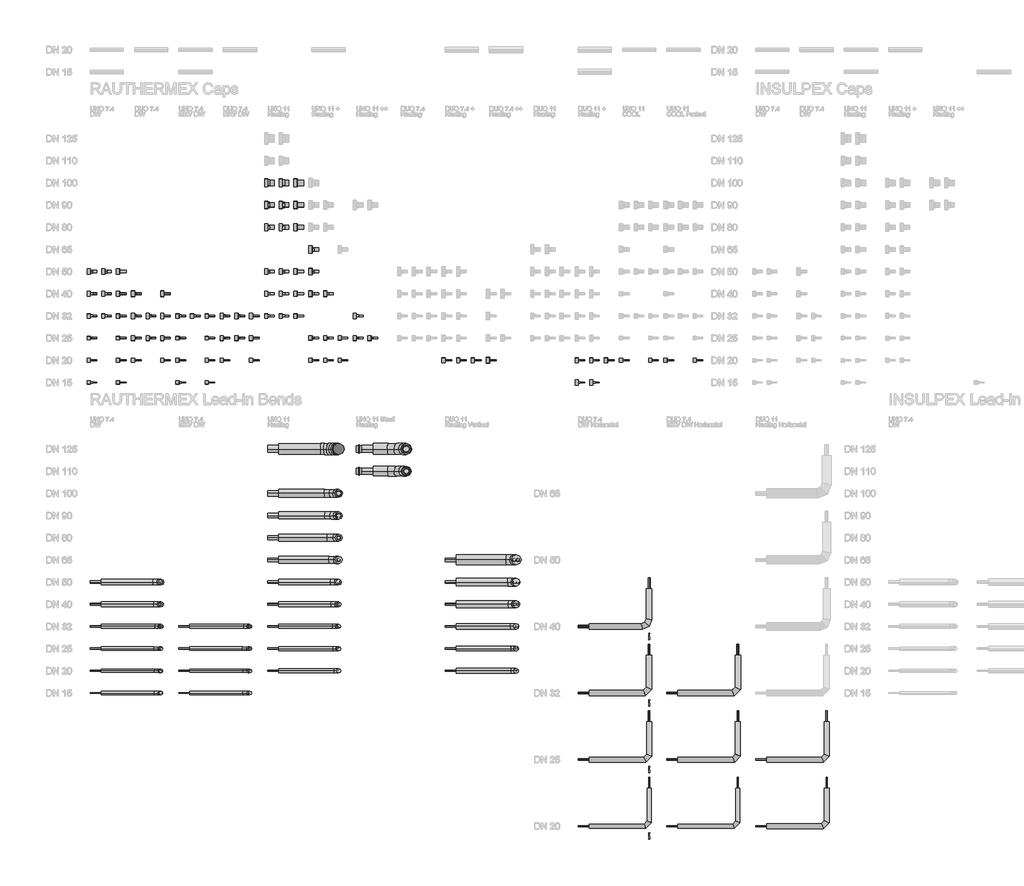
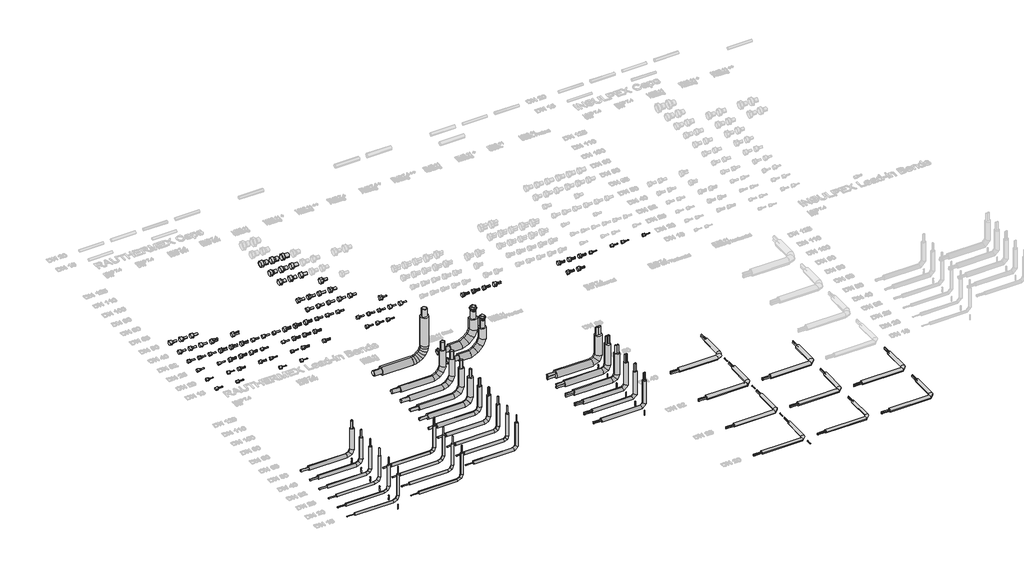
# One storey, part 1 of 44: 123 pipe fittings.
"""IFC4 building model written with IfcOpenShell, lengths in millimetres."""

from ifc_helpers import new_model, si_unit, origin, place, context, project, spatial, transform, mapped, element, save
from components import dh_duo_cap_38ad7c28, dh_duo_cap_57db8bb2, dh_duo_cap_e41fb6d8, dh_duo_cap_ca8780d0, dh_duo_cap_164f9e09, dh_duo_cap_216b5738, dh_duo_cap_58c174f1, dh_duo_cap_4cde6626, dh_duo_cap_34895898, dh_duo_cap_7b3fe66b, dh_duo_cap_7bc42460, dh_duo_cap_a61b90cc, dh_duo_cap_c599dcdc, dh_duo_cap_21493ab1, dh_lead_in_bend_0489eec1, dh_lead_in_bend_4d10f37f, dh_lead_in_bend_c49822a2, dh_lead_in_bend_6a66a6e7, dh_lead_in_bend_729ed1e1, dh_lead_in_bend_7c9c8f80, dh_lead_in_bend_3db4022c, dh_lead_in_bend_de081a9f, dh_lead_in_bend_81963ebd, dh_lead_in_bend_6df17b34, dh_lead_in_bend_01470123, dh_lead_in_bend_c489b661, dh_lead_in_bend_f1abdf10, dh_lead_in_bend_31b992d6, dh_lead_in_bend_53604a29, dh_lead_in_bend_cc4b5283, dh_lead_in_bend_a8513684, dh_lead_in_bend_f3e9e936, dh_lead_in_bend_a209e62e, dh_lead_in_bend_a80b687c, dh_lead_in_bend_594914a1, dh_lead_in_bend_a448e4b1, dh_lead_in_bend_b3935c15, dh_lead_in_bend_179b0c8a, dh_lead_in_bend_0ec1a931, dh_lead_in_bend_4b752211, dh_lead_in_bend_1756ac80, dh_lead_in_bend_a989b2fb, dh_lead_in_bend_9773693a, dh_lead_in_bend_f90659fa, dh_lead_in_bend_4d12e4c8, dh_lead_in_bend_52e7693f, dh_lead_in_bend_a7d7afeb, dh_lead_in_bend_9d490864, dh_lead_in_bend_bfd7b119, dh_lead_in_bend_3ab27fd6, dh_lead_in_bend_f2175f49, dh_uno_cap_cec79eb2, dh_uno_cap_fe882160, dh_uno_cap_723df487, dh_uno_cap_97a2185b, dh_uno_cap_98028304, dh_uno_cap_9742cd2a, dh_uno_cap_751b7bd4, dh_uno_cap_d4246d68, dh_uno_cap_14c8f1f0, dh_uno_cap_2f90c035, dh_uno_cap_99b91bbb, dh_uno_cap_0c939804, dh_uno_cap_3b9207c0, dh_uno_cap_a0cf77d5, dh_uno_cap_c8f08ed2, dh_uno_cap_65efb41c, dh_uno_cap_88088488, dh_uno_cap_5ac99b47, dh_uno_cap_e8f4ea1d, dh_uno_cap_96114e43, dh_uno_cap_b77fc7ff, dh_uno_cap_33b70dba, dh_uno_cap_73119769, dh_uno_cap_92e64040, dh_uno_cap_945a6275, dh_uno_cap_740adfad, dh_uno_cap_4363f071, dh_uno_cap_8eaff71e, dh_uno_cap_b6fb2b5d, dh_uno_cap_75e82632, dh_uno_cap_03200df1, dh_uno_cap_c55762d6, dh_uno_cap_09e5b6a2, dh_uno_cap_a0ef613d, dh_uno_cap_45976d59

model = new_model("IFC4")

# Units and contexts
model_context = context("Model", 3, world=origin())
ifc_project = project(units=[si_unit("LENGTHUNIT", "METRE", prefix="MILLI")], contexts=[model_context])

# Site, building, storey
site = spatial("IfcSite", under=ifc_project)
building = spatial("IfcBuilding", under=site)
storey = spatial("IfcBuildingStorey", under=building, Name="REHAU Starting view", Elevation=0.0)

# Pipe fittings
placement = place(None, origin())
dh_duo_cap_shape = dh_duo_cap_38ad7c28(model_context)
element("IfcPipeFitting", 1, ObjectType="DH_DUO_CAP : RAUTHERMEX DUO 7.4 DW - Schrink Cap", at=placement, inside=storey, context=model_context, shape_type="MappedRepresentation", body=[
    mapped(dh_duo_cap_shape, transform((2000.0, 9000.0, 0.0), x_axis=(1.0, 0.0, 0.0), y_axis=(0.0, 1.0, 0.0), z_axis=(0.0, 0.0, 1.0))),
])
dh_duo_cap_2_shape = dh_duo_cap_57db8bb2(model_context)
element("IfcPipeFitting", 2, ObjectType="DH_DUO_CAP : RAUTHERMEX DUO + 11 Heating - Schrink Cap", at=placement, inside=storey, context=model_context, shape_type="MappedRepresentation", body=[
    mapped(dh_duo_cap_2_shape, transform((12000.0, 7000.0, 0.0), x_axis=(1.0, 0.0, 0.0), y_axis=(0.0, 1.0, 0.0), z_axis=(0.0, 0.0, 1.0))),
])
element("IfcPipeFitting", 3, ObjectType="DH_DUO_CAP : RAUTHERMEX DUO + 11 Heating - Rubber Cap", at=placement, inside=storey, context=model_context, shape_type="MappedRepresentation", body=[
    mapped(dh_duo_cap_2_shape, transform((12330.0, 7000.0, 0.0), x_axis=(1.0, 0.0, 0.0), y_axis=(0.0, 1.0, 0.0), z_axis=(0.0, 0.0, 1.0))),
])
dh_duo_cap_3_shape = dh_duo_cap_e41fb6d8(model_context)
element("IfcPipeFitting", 4, ObjectType="DH_DUO_CAP : RAUTHERMEX DUO 7.4 DW - Rubber Cap", at=placement, inside=storey, context=model_context, shape_type="MappedRepresentation", body=[
    mapped(dh_duo_cap_3_shape, transform((2330.0, 8000.0, 0.0), x_axis=(1.0, 0.0, 0.0), y_axis=(0.0, 1.0, 0.0), z_axis=(0.0, 0.0, 1.0))),
])
dh_duo_cap_4_shape = dh_duo_cap_ca8780d0(model_context)
element("IfcPipeFitting", 5, ObjectType="DH_DUO_CAP : RAUTHERMEX DUO + 11 Heating - Solid Cap", at=placement, inside=storey, context=model_context, shape_type="MappedRepresentation", body=[
    mapped(dh_duo_cap_4_shape, transform((12660.0, 7500.0, 0.0), x_axis=(1.0, 0.0, 0.0), y_axis=(0.0, 1.0, 0.0), z_axis=(0.0, 0.0, 1.0))),
])
dh_duo_cap_5_shape = dh_duo_cap_164f9e09(model_context)
element("IfcPipeFitting", 6, ObjectType="DH_DUO_CAP : RAUTHERMEX DUO + 7.4 Heating - Solid Cap", at=placement, inside=storey, context=model_context, shape_type="MappedRepresentation", body=[
    mapped(dh_duo_cap_5_shape, transform((9660.0, 7500.0, 0.0), x_axis=(1.0, 0.0, 0.0), y_axis=(0.0, 1.0, 0.0), z_axis=(0.0, 0.0, 1.0))),
])
dh_duo_cap_6_shape = dh_duo_cap_216b5738(model_context)
element("IfcPipeFitting", 7, ObjectType="DH_DUO_CAP : RAUTHERMEX DUO 7.4 DW - Solid Cap", at=placement, inside=storey, context=model_context, shape_type="MappedRepresentation", body=[
    mapped(dh_duo_cap_6_shape, transform((2660.0, 8000.0, 0.0), x_axis=(1.0, 0.0, 0.0), y_axis=(0.0, 1.0, 0.0), z_axis=(0.0, 0.0, 1.0))),
])
element("IfcPipeFitting", 8, ObjectType="DH_DUO_CAP : RAUTHERMEX DUO 7.4 MKV DW - Rubber Cap", at=placement, inside=storey, context=model_context, shape_type="MappedRepresentation", body=[
    mapped(dh_duo_cap_3_shape, transform((4330.0, 8000.0, 0.0), x_axis=(1.0, 0.0, 0.0), y_axis=(0.0, 1.0, 0.0), z_axis=(0.0, 0.0, 1.0))),
])
dh_duo_cap_7_shape = dh_duo_cap_58c174f1(model_context)
element("IfcPipeFitting", 9, ObjectType="DH_DUO_CAP : RAUTHERMEX DUO 7.4 DW - Solid Cap", at=placement, inside=storey, context=model_context, shape_type="MappedRepresentation", body=[
    mapped(dh_duo_cap_7_shape, transform((2660.0, 7500.0, 0.0), x_axis=(1.0, 0.0, 0.0), y_axis=(0.0, 1.0, 0.0), z_axis=(0.0, 0.0, 1.0))),
])
dh_duo_cap_8_shape = dh_duo_cap_4cde6626(model_context)
element("IfcPipeFitting", 10, ObjectType="DH_DUO_CAP : RAUTHERMEX DUO 7.4 DW - Solid Cap", at=placement, inside=storey, context=model_context, shape_type="MappedRepresentation", body=[
    mapped(dh_duo_cap_8_shape, transform((2660.0, 8500.0, 0.0), x_axis=(1.0, 0.0, 0.0), y_axis=(0.0, 1.0, 0.0), z_axis=(0.0, 0.0, 1.0))),
])
dh_duo_cap_9_shape = dh_duo_cap_34895898(model_context)
element("IfcPipeFitting", 11, ObjectType="DH_DUO_CAP : RAUTHERMEX DUO 7.4 DW - Rubber Cap", at=placement, inside=storey, context=model_context, shape_type="MappedRepresentation", body=[
    mapped(dh_duo_cap_9_shape, transform((2330.0, 8500.0, 0.0), x_axis=(1.0, 0.0, 0.0), y_axis=(0.0, 1.0, 0.0), z_axis=(0.0, 0.0, 1.0))),
])
dh_duo_cap_10_shape = dh_duo_cap_7b3fe66b(model_context)
element("IfcPipeFitting", 12, ObjectType="DH_DUO_CAP : RAUTHERMEX DUO 7.4 DW - Solid Cap", at=placement, inside=storey, context=model_context, shape_type="MappedRepresentation", body=[
    mapped(dh_duo_cap_10_shape, transform((2660.0, 9000.0, 0.0), x_axis=(1.0, 0.0, 0.0), y_axis=(0.0, 1.0, 0.0), z_axis=(0.0, 0.0, 1.0))),
])
element("IfcPipeFitting", 13, ObjectType="DH_DUO_CAP : RAUTHERMEX DUO 7.4 DW - Schrink Cap", at=placement, inside=storey, context=model_context, shape_type="MappedRepresentation", body=[
    mapped(dh_duo_cap_3_shape, transform((2000.0, 8000.0, 0.0), x_axis=(1.0, 0.0, 0.0), y_axis=(0.0, 1.0, 0.0), z_axis=(0.0, 0.0, 1.0))),
])
element("IfcPipeFitting", 14, ObjectType="DH_DUO_CAP : RAUTHERMEX DUO 7.4 DW - Schrink Cap", at=placement, inside=storey, context=model_context, shape_type="MappedRepresentation", body=[
    mapped(dh_duo_cap_9_shape, transform((2000.0, 8500.0, 0.0), x_axis=(1.0, 0.0, 0.0), y_axis=(0.0, 1.0, 0.0), z_axis=(0.0, 0.0, 1.0))),
])
dh_duo_cap_11_shape = dh_duo_cap_7bc42460(model_context)
element("IfcPipeFitting", 15, ObjectType="DH_DUO_CAP : RAUTHERMEX DUO 7.4 DW - Schrink Cap", at=placement, inside=storey, context=model_context, shape_type="MappedRepresentation", body=[
    mapped(dh_duo_cap_11_shape, transform((2000.0, 7500.0, 0.0), x_axis=(1.0, 0.0, 0.0), y_axis=(0.0, 1.0, 0.0), z_axis=(0.0, 0.0, 1.0))),
])
dh_duo_cap_12_shape = dh_duo_cap_a61b90cc(model_context)
element("IfcPipeFitting", 16, ObjectType="DH_DUO_CAP : RAUTHERMEX DUO + 7.4 Heating - Schrink Cap", at=placement, inside=storey, context=model_context, shape_type="MappedRepresentation", body=[
    mapped(dh_duo_cap_12_shape, transform((9000.0, 7500.0, 0.0), x_axis=(1.0, 0.0, 0.0), y_axis=(0.0, 1.0, 0.0), z_axis=(0.0, 0.0, 1.0))),
])
element("IfcPipeFitting", 17, ObjectType="DH_DUO_CAP : RAUTHERMEX DUO + 7.4 Heating - Rubber Cap", at=placement, inside=storey, context=model_context, shape_type="MappedRepresentation", body=[
    mapped(dh_duo_cap_12_shape, transform((9330.0, 7500.0, 0.0), x_axis=(1.0, 0.0, 0.0), y_axis=(0.0, 1.0, 0.0), z_axis=(0.0, 0.0, 1.0))),
])
dh_duo_cap_13_shape = dh_duo_cap_c599dcdc(model_context)
element("IfcPipeFitting", 18, ObjectType="DH_DUO_CAP : RAUTHERMEX DUO ++ 7.4 Heating - Schrink Cap", at=placement, inside=storey, context=model_context, shape_type="MappedRepresentation", body=[
    mapped(dh_duo_cap_13_shape, transform((10000.0, 7500.0, 0.0), x_axis=(1.0, 0.0, 0.0), y_axis=(0.0, 1.0, 0.0), z_axis=(0.0, 0.0, 1.0))),
])
dh_duo_cap_14_shape = dh_duo_cap_21493ab1(model_context)
element("IfcPipeFitting", 19, ObjectType="DH_DUO_CAP : RAUTHERMEX DUO + 11 Heating - Rubber Cap", at=placement, inside=storey, context=model_context, shape_type="MappedRepresentation", body=[
    mapped(dh_duo_cap_14_shape, transform((12330.0, 7500.0, 0.0), x_axis=(1.0, 0.0, 0.0), y_axis=(0.0, 1.0, 0.0), z_axis=(0.0, 0.0, 1.0))),
])
element("IfcPipeFitting", 20, ObjectType="DH_DUO_CAP : RAUTHERMEX DUO + 11 Heating - Schrink Cap", at=placement, inside=storey, context=model_context, shape_type="MappedRepresentation", body=[
    mapped(dh_duo_cap_14_shape, transform((12000.0, 7500.0, 0.0), x_axis=(1.0, 0.0, 0.0), y_axis=(0.0, 1.0, 0.0), z_axis=(0.0, 0.0, 1.0))),
])
element("IfcPipeFitting", 21, ObjectType="DH_DUO_CAP : RAUTHERMEX DUO 7.4 MKV DW - Solid Cap", at=placement, inside=storey, context=model_context, shape_type="MappedRepresentation", body=[
    mapped(dh_duo_cap_7_shape, transform((4660.0, 7500.0, 0.0), x_axis=(1.0, 0.0, 0.0), y_axis=(0.0, 1.0, 0.0), z_axis=(0.0, 0.0, 1.0))),
])
element("IfcPipeFitting", 22, ObjectType="DH_DUO_CAP : RAUTHERMEX DUO 7.4 MKV DW - Solid Cap", at=placement, inside=storey, context=model_context, shape_type="MappedRepresentation", body=[
    mapped(dh_duo_cap_6_shape, transform((4660.0, 8000.0, 0.0), x_axis=(1.0, 0.0, 0.0), y_axis=(0.0, 1.0, 0.0), z_axis=(0.0, 0.0, 1.0))),
])
element("IfcPipeFitting", 23, ObjectType="DH_DUO_CAP : RAUTHERMEX DUO 7.4 MKV DW - Solid Cap", at=placement, inside=storey, context=model_context, shape_type="MappedRepresentation", body=[
    mapped(dh_duo_cap_8_shape, transform((4660.0, 8500.0, 0.0), x_axis=(1.0, 0.0, 0.0), y_axis=(0.0, 1.0, 0.0), z_axis=(0.0, 0.0, 1.0))),
])
element("IfcPipeFitting", 24, ObjectType="DH_DUO_CAP : RAUTHERMEX DUO 7.4 MKV DW - Rubber Cap", at=placement, inside=storey, context=model_context, shape_type="MappedRepresentation", body=[
    mapped(dh_duo_cap_9_shape, transform((4330.0, 8500.0, 0.0), x_axis=(1.0, 0.0, 0.0), y_axis=(0.0, 1.0, 0.0), z_axis=(0.0, 0.0, 1.0))),
])
element("IfcPipeFitting", 25, ObjectType="DH_DUO_CAP : RAUTHERMEX DUO 7.4 MKV DW - Schrink Cap", at=placement, inside=storey, context=model_context, shape_type="MappedRepresentation", body=[
    mapped(dh_duo_cap_11_shape, transform((4000.0, 7500.0, 0.0), x_axis=(1.0, 0.0, 0.0), y_axis=(0.0, 1.0, 0.0), z_axis=(0.0, 0.0, 1.0))),
])
element("IfcPipeFitting", 26, ObjectType="DH_DUO_CAP : RAUTHERMEX DUO 7.4 MKV DW - Schrink Cap", at=placement, inside=storey, context=model_context, shape_type="MappedRepresentation", body=[
    mapped(dh_duo_cap_3_shape, transform((4000.0, 8000.0, 0.0), x_axis=(1.0, 0.0, 0.0), y_axis=(0.0, 1.0, 0.0), z_axis=(0.0, 0.0, 1.0))),
])
element("IfcPipeFitting", 27, ObjectType="DH_DUO_CAP : RAUTHERMEX DUO 7.4 MKV DW - Schrink Cap", at=placement, inside=storey, context=model_context, shape_type="MappedRepresentation", body=[
    mapped(dh_duo_cap_9_shape, transform((4000.0, 8500.0, 0.0), x_axis=(1.0, 0.0, 0.0), y_axis=(0.0, 1.0, 0.0), z_axis=(0.0, 0.0, 1.0))),
])
dh_lead_in_bend_shape = dh_lead_in_bend_0489eec1(model_context)
element("IfcPipeFitting", 28, ObjectType="DH_Lead-in Bend : RVT/RVX/RTX DUO 11 Heating Horizontal", at=placement, inside=storey, context=model_context, shape_type="MappedRepresentation", body=[
    mapped(dh_lead_in_bend_shape, transform((17600.0, -3000.0, 0.0), x_axis=(1.0, 0.0, 0.0), y_axis=(0.0, 1.0, 0.0), z_axis=(0.0, 0.0, 1.0))),
])
dh_lead_in_bend_2_shape = dh_lead_in_bend_4d10f37f(model_context)
element("IfcPipeFitting", 29, ObjectType="DH_Lead-in Bend : RVT/RVX/RTX DUO 11 Heating Vertical", at=placement, inside=storey, context=model_context, shape_type="MappedRepresentation", body=[
    mapped(dh_lead_in_bend_2_shape, transform((10600.0, 1000.0, 0.0), x_axis=(1.0, 0.0, 0.0), y_axis=(0.0, 0.0, 1.0), z_axis=(0.0, -1.0, 0.0))),
])
dh_lead_in_bend_3_shape = dh_lead_in_bend_c49822a2(model_context)
element("IfcPipeFitting", 30, ObjectType="DH_Lead-in Bend : RVT/RVX/RTX DUO 7.4 DW Horizontal", at=placement, inside=storey, context=model_context, shape_type="MappedRepresentation", body=[
    mapped(dh_lead_in_bend_3_shape, transform((13600.0, -3000.0, 0.0), x_axis=(1.0, 0.0, 0.0), y_axis=(0.0, 1.0, 0.0), z_axis=(0.0, 0.0, 1.0))),
])
dh_lead_in_bend_4_shape = dh_lead_in_bend_6a66a6e7(model_context)
element("IfcPipeFitting", 31, ObjectType="DH_Lead-in Bend : RVT/RVX/RTX DUO 7.4 MKV DW Horizontal", at=placement, inside=storey, context=model_context, shape_type="MappedRepresentation", body=[
    mapped(dh_lead_in_bend_4_shape, transform((15600.0, -3000.0, 0.0), x_axis=(1.0, 0.0, 0.0), y_axis=(0.0, 1.0, 0.0), z_axis=(0.0, 0.0, 1.0))),
])
dh_lead_in_bend_5_shape = dh_lead_in_bend_729ed1e1(model_context)
element("IfcPipeFitting", 32, ObjectType="DH_Lead-in Bend : RVT/RVX/RTX UNO 11 Heating Steel", at=placement, inside=storey, context=model_context, shape_type="MappedRepresentation", body=[
    mapped(dh_lead_in_bend_5_shape, transform((8127.0, 5000.0, 0.0), x_axis=(1.0, 0.0, 0.0), y_axis=(0.0, 0.0, 1.0), z_axis=(0.0, -1.0, 0.0))),
])
dh_lead_in_bend_6_shape = dh_lead_in_bend_7c9c8f80(model_context)
element("IfcPipeFitting", 33, ObjectType="DH_Lead-in Bend : RVT/RVX/RTX UNO 11 Heating", at=placement, inside=storey, context=model_context, shape_type="MappedRepresentation", body=[
    mapped(dh_lead_in_bend_6_shape, transform((6600.0, 500.0, 0.0), x_axis=(1.0, 0.0, 0.0), y_axis=(0.0, 0.0, 1.0), z_axis=(0.0, -1.0, 0.0))),
])
dh_lead_in_bend_7_shape = dh_lead_in_bend_3db4022c(model_context)
element("IfcPipeFitting", 34, ObjectType="DH_Lead-in Bend : RVT/RVX/RTX UNO 7.4 DW", at=placement, inside=storey, context=model_context, shape_type="MappedRepresentation", body=[
    mapped(dh_lead_in_bend_7_shape, transform((2600.0, 500.0, 0.0), x_axis=(1.0, 0.0, 0.0), y_axis=(0.0, 0.0, 1.0), z_axis=(0.0, -1.0, 0.0))),
])
dh_lead_in_bend_8_shape = dh_lead_in_bend_de081a9f(model_context)
element("IfcPipeFitting", 35, ObjectType="DH_Lead-in Bend : RVT/RVX/RTX UNO 7.4 MKV DW", at=placement, inside=storey, context=model_context, shape_type="MappedRepresentation", body=[
    mapped(dh_lead_in_bend_8_shape, transform((4600.0, 500.0, 0.0), x_axis=(1.0, 0.0, 0.0), y_axis=(0.0, 0.0, 1.0), z_axis=(0.0, -1.0, 0.0))),
])
dh_lead_in_bend_9_shape = dh_lead_in_bend_81963ebd(model_context)
element("IfcPipeFitting", 36, ObjectType="DH_Lead-in Bend : RVT/RVX/RTX DUO 7.4 DW Horizontal", at=placement, inside=storey, context=model_context, shape_type="MappedRepresentation", body=[
    mapped(dh_lead_in_bend_9_shape, transform((13600.0, -1500.0, 0.0), x_axis=(1.0, 0.0, 0.0), y_axis=(0.0, 1.0, 0.0), z_axis=(0.0, 0.0, 1.0))),
])
dh_lead_in_bend_10_shape = dh_lead_in_bend_6df17b34(model_context)
element("IfcPipeFitting", 37, ObjectType="DH_Lead-in Bend : RVT/RVX/RTX DUO 7.4 DW Horizontal", at=placement, inside=storey, context=model_context, shape_type="MappedRepresentation", body=[
    mapped(dh_lead_in_bend_10_shape, transform((13600.0, 0.0, 0.0), x_axis=(1.0, 0.0, 0.0), y_axis=(0.0, 1.0, 0.0), z_axis=(0.0, 0.0, 1.0))),
])
dh_lead_in_bend_11_shape = dh_lead_in_bend_01470123(model_context)
element("IfcPipeFitting", 38, ObjectType="DH_Lead-in Bend : RVT/RVX/RTX DUO 11 Heating Vertical", at=placement, inside=storey, context=model_context, shape_type="MappedRepresentation", body=[
    mapped(dh_lead_in_bend_11_shape, transform((10600.0, 500.0, 0.0), x_axis=(1.0, 0.0, 0.0), y_axis=(0.0, 0.0, 1.0), z_axis=(0.0, -1.0, 0.0))),
])
dh_lead_in_bend_12_shape = dh_lead_in_bend_c489b661(model_context)
element("IfcPipeFitting", 39, ObjectType="DH_Lead-in Bend : RVT/RVX/RTX DUO 11 Heating Vertical", at=placement, inside=storey, context=model_context, shape_type="MappedRepresentation", body=[
    mapped(dh_lead_in_bend_12_shape, transform((10600.0, 1500.0, 0.0), x_axis=(1.0, 0.0, 0.0), y_axis=(0.0, 0.0, 1.0), z_axis=(0.0, -1.0, 0.0))),
])
dh_lead_in_bend_13_shape = dh_lead_in_bend_f1abdf10(model_context)
element("IfcPipeFitting", 40, ObjectType="DH_Lead-in Bend : RVT/RVX/RTX DUO 11 Heating Vertical", at=placement, inside=storey, context=model_context, shape_type="MappedRepresentation", body=[
    mapped(dh_lead_in_bend_13_shape, transform((10600.0, 2000.0, 0.0), x_axis=(1.0, 0.0, 0.0), y_axis=(0.0, 0.0, 1.0), z_axis=(0.0, -1.0, 0.0))),
])
dh_lead_in_bend_14_shape = dh_lead_in_bend_31b992d6(model_context)
element("IfcPipeFitting", 41, ObjectType="DH_Lead-in Bend : RVT/RVX/RTX DUO 11 Heating Vertical", at=placement, inside=storey, context=model_context, shape_type="MappedRepresentation", body=[
    mapped(dh_lead_in_bend_14_shape, transform((10600.0, 2500.0, 0.0), x_axis=(1.0, 0.0, 0.0), y_axis=(0.0, 0.0, 1.0), z_axis=(0.0, -1.0, 0.0))),
])
dh_lead_in_bend_15_shape = dh_lead_in_bend_53604a29(model_context)
element("IfcPipeFitting", 42, ObjectType="DH_Lead-in Bend : RVT/RVX/RTX DUO 11 Heating Vertical", at=placement, inside=storey, context=model_context, shape_type="MappedRepresentation", body=[
    mapped(dh_lead_in_bend_15_shape, transform((10600.0, 3000.0, 0.0), x_axis=(1.0, 0.0, 0.0), y_axis=(0.0, 0.0, 1.0), z_axis=(0.0, -1.0, 0.0))),
])
dh_lead_in_bend_16_shape = dh_lead_in_bend_cc4b5283(model_context)
element("IfcPipeFitting", 43, ObjectType="DH_Lead-in Bend : RVT/RVX/RTX UNO 11 Heating", at=placement, inside=storey, context=model_context, shape_type="MappedRepresentation", body=[
    mapped(dh_lead_in_bend_16_shape, transform((6600.0, 1000.0, 0.0), x_axis=(1.0, 0.0, 0.0), y_axis=(0.0, 0.0, 1.0), z_axis=(0.0, -1.0, 0.0))),
])
dh_lead_in_bend_17_shape = dh_lead_in_bend_a8513684(model_context)
element("IfcPipeFitting", 44, ObjectType="DH_Lead-in Bend : RVT/RVX/RTX UNO 11 Heating", at=placement, inside=storey, context=model_context, shape_type="MappedRepresentation", body=[
    mapped(dh_lead_in_bend_17_shape, transform((6600.0, 1500.0, 0.0), x_axis=(1.0, 0.0, 0.0), y_axis=(0.0, 0.0, 1.0), z_axis=(0.0, -1.0, 0.0))),
])
dh_lead_in_bend_18_shape = dh_lead_in_bend_f3e9e936(model_context)
element("IfcPipeFitting", 45, ObjectType="DH_Lead-in Bend : RVT/RVX/RTX UNO 11 Heating", at=placement, inside=storey, context=model_context, shape_type="MappedRepresentation", body=[
    mapped(dh_lead_in_bend_18_shape, transform((6600.0, 2000.0, 0.0), x_axis=(1.0, 0.0, 0.0), y_axis=(0.0, 0.0, 1.0), z_axis=(0.0, -1.0, 0.0))),
])
dh_lead_in_bend_19_shape = dh_lead_in_bend_a209e62e(model_context)
element("IfcPipeFitting", 46, ObjectType="DH_Lead-in Bend : RVT/RVX/RTX UNO 11 Heating", at=placement, inside=storey, context=model_context, shape_type="MappedRepresentation", body=[
    mapped(dh_lead_in_bend_19_shape, transform((6600.0, 2500.0, 0.0), x_axis=(1.0, 0.0, 0.0), y_axis=(0.0, 0.0, 1.0), z_axis=(0.0, -1.0, 0.0))),
])
dh_lead_in_bend_20_shape = dh_lead_in_bend_a80b687c(model_context)
element("IfcPipeFitting", 47, ObjectType="DH_Lead-in Bend : RVT/RVX/RTX UNO 11 Heating", at=placement, inside=storey, context=model_context, shape_type="MappedRepresentation", body=[
    mapped(dh_lead_in_bend_20_shape, transform((6600.0, 3000.0, 0.0), x_axis=(1.0, 0.0, 0.0), y_axis=(0.0, 0.0, 1.0), z_axis=(0.0, -1.0, 0.0))),
])
dh_lead_in_bend_21_shape = dh_lead_in_bend_594914a1(model_context)
element("IfcPipeFitting", 48, ObjectType="DH_Lead-in Bend : RVT/RVX/RTX UNO 11 Heating", at=placement, inside=storey, context=model_context, shape_type="MappedRepresentation", body=[
    mapped(dh_lead_in_bend_21_shape, transform((6600.0, 3500.0, 0.0), x_axis=(1.0, 0.0, 0.0), y_axis=(0.0, 0.0, 1.0), z_axis=(0.0, -1.0, 0.0))),
])
dh_lead_in_bend_22_shape = dh_lead_in_bend_a448e4b1(model_context)
element("IfcPipeFitting", 49, ObjectType="DH_Lead-in Bend : RVT/RVX/RTX UNO 11 Heating", at=placement, inside=storey, context=model_context, shape_type="MappedRepresentation", body=[
    mapped(dh_lead_in_bend_22_shape, transform((6600.0, 4000.0, 0.0), x_axis=(1.0, 0.0, 0.0), y_axis=(0.0, 0.0, 1.0), z_axis=(0.0, -1.0, 0.0))),
])
dh_lead_in_bend_23_shape = dh_lead_in_bend_b3935c15(model_context)
element("IfcPipeFitting", 50, ObjectType="DH_Lead-in Bend : RVT/RVX/RTX UNO 11 Heating", at=placement, inside=storey, context=model_context, shape_type="MappedRepresentation", body=[
    mapped(dh_lead_in_bend_23_shape, transform((6600.0, 4500.0, 0.0), x_axis=(1.0, 0.0, 0.0), y_axis=(0.0, 0.0, 1.0), z_axis=(0.0, -1.0, 0.0))),
])
dh_lead_in_bend_24_shape = dh_lead_in_bend_179b0c8a(model_context)
element("IfcPipeFitting", 51, ObjectType="DH_Lead-in Bend : RVT/RVX/RTX UNO 11 Heating", at=placement, inside=storey, context=model_context, shape_type="MappedRepresentation", body=[
    mapped(dh_lead_in_bend_24_shape, transform((6600.0, 5500.0, 0.0), x_axis=(1.0, 0.0, 0.0), y_axis=(0.0, 0.0, 1.0), z_axis=(0.0, -1.0, 0.0))),
])
dh_lead_in_bend_25_shape = dh_lead_in_bend_0ec1a931(model_context)
element("IfcPipeFitting", 52, ObjectType="DH_Lead-in Bend : RVT/RVX/RTX UNO 11 Heating Steel", at=placement, inside=storey, context=model_context, shape_type="MappedRepresentation", body=[
    mapped(dh_lead_in_bend_25_shape, transform((8127.0, 5500.0, 0.0), x_axis=(1.0, 0.0, 0.0), y_axis=(0.0, 0.0, 1.0), z_axis=(0.0, -1.0, 0.0))),
])
dh_lead_in_bend_26_shape = dh_lead_in_bend_4b752211(model_context)
element("IfcPipeFitting", 53, ObjectType="DH_Lead-in Bend : RVT/RVX/RTX UNO 7.4 DW", at=placement, inside=storey, context=model_context, shape_type="MappedRepresentation", body=[
    mapped(dh_lead_in_bend_26_shape, transform((2600.0, 0.0, 0.0), x_axis=(1.0, 0.0, 0.0), y_axis=(0.0, 0.0, 1.0), z_axis=(0.0, -1.0, 0.0))),
])
dh_lead_in_bend_27_shape = dh_lead_in_bend_1756ac80(model_context)
element("IfcPipeFitting", 54, ObjectType="DH_Lead-in Bend : RVT/RVX/RTX UNO 7.4 DW", at=placement, inside=storey, context=model_context, shape_type="MappedRepresentation", body=[
    mapped(dh_lead_in_bend_27_shape, transform((2600.0, 1000.0, 0.0), x_axis=(1.0, 0.0, 0.0), y_axis=(0.0, 0.0, 1.0), z_axis=(0.0, -1.0, 0.0))),
])
dh_lead_in_bend_28_shape = dh_lead_in_bend_a989b2fb(model_context)
element("IfcPipeFitting", 55, ObjectType="DH_Lead-in Bend : RVT/RVX/RTX UNO 7.4 DW", at=placement, inside=storey, context=model_context, shape_type="MappedRepresentation", body=[
    mapped(dh_lead_in_bend_28_shape, transform((2600.0, 1500.0, 0.0), x_axis=(1.0, 0.0, 0.0), y_axis=(0.0, 0.0, 1.0), z_axis=(0.0, -1.0, 0.0))),
])
dh_lead_in_bend_29_shape = dh_lead_in_bend_9773693a(model_context)
element("IfcPipeFitting", 56, ObjectType="DH_Lead-in Bend : RVT/RVX/RTX UNO 7.4 DW", at=placement, inside=storey, context=model_context, shape_type="MappedRepresentation", body=[
    mapped(dh_lead_in_bend_29_shape, transform((2600.0, 2000.0, 0.0), x_axis=(1.0, 0.0, 0.0), y_axis=(0.0, 0.0, 1.0), z_axis=(0.0, -1.0, 0.0))),
])
dh_lead_in_bend_30_shape = dh_lead_in_bend_f90659fa(model_context)
element("IfcPipeFitting", 57, ObjectType="DH_Lead-in Bend : RVT/RVX/RTX UNO 7.4 DW", at=placement, inside=storey, context=model_context, shape_type="MappedRepresentation", body=[
    mapped(dh_lead_in_bend_30_shape, transform((2600.0, 2500.0, 0.0), x_axis=(1.0, 0.0, 0.0), y_axis=(0.0, 0.0, 1.0), z_axis=(0.0, -1.0, 0.0))),
])
dh_lead_in_bend_31_shape = dh_lead_in_bend_4d12e4c8(model_context)
element("IfcPipeFitting", 58, ObjectType="DH_Lead-in Bend : RVT/RVX/RTX UNO 7.4 MKV DW", at=placement, inside=storey, context=model_context, shape_type="MappedRepresentation", body=[
    mapped(dh_lead_in_bend_31_shape, transform((4600.0, 0.0, 0.0), x_axis=(1.0, 0.0, 0.0), y_axis=(0.0, 0.0, 1.0), z_axis=(0.0, -1.0, 0.0))),
])
dh_lead_in_bend_32_shape = dh_lead_in_bend_52e7693f(model_context)
element("IfcPipeFitting", 59, ObjectType="DH_Lead-in Bend : RVT/RVX/RTX UNO 7.4 MKV DW", at=placement, inside=storey, context=model_context, shape_type="MappedRepresentation", body=[
    mapped(dh_lead_in_bend_32_shape, transform((4600.0, 1000.0, 0.0), x_axis=(1.0, 0.0, 0.0), y_axis=(0.0, 0.0, 1.0), z_axis=(0.0, -1.0, 0.0))),
])
dh_lead_in_bend_33_shape = dh_lead_in_bend_a7d7afeb(model_context)
element("IfcPipeFitting", 60, ObjectType="DH_Lead-in Bend : RVT/RVX/RTX UNO 7.4 MKV DW", at=placement, inside=storey, context=model_context, shape_type="MappedRepresentation", body=[
    mapped(dh_lead_in_bend_33_shape, transform((4600.0, 1500.0, 0.0), x_axis=(1.0, 0.0, 0.0), y_axis=(0.0, 0.0, 1.0), z_axis=(0.0, -1.0, 0.0))),
])
dh_lead_in_bend_34_shape = dh_lead_in_bend_9d490864(model_context)
element("IfcPipeFitting", 61, ObjectType="DH_Lead-in Bend : RVT/RVX/RTX DUO 7.4 DW Horizontal", at=placement, inside=storey, context=model_context, shape_type="MappedRepresentation", body=[
    mapped(dh_lead_in_bend_34_shape, transform((13600.0, 1500.0, 0.0), x_axis=(1.0, 0.0, 0.0), y_axis=(0.0, 1.0, 0.0), z_axis=(0.0, 0.0, 1.0))),
])
dh_lead_in_bend_35_shape = dh_lead_in_bend_bfd7b119(model_context)
element("IfcPipeFitting", 62, ObjectType="DH_Lead-in Bend : RVT/RVX/RTX DUO 7.4 MKV DW Horizontal", at=placement, inside=storey, context=model_context, shape_type="MappedRepresentation", body=[
    mapped(dh_lead_in_bend_35_shape, transform((15600.0, -1500.0, 0.0), x_axis=(1.0, 0.0, 0.0), y_axis=(0.0, 1.0, 0.0), z_axis=(0.0, 0.0, 1.0))),
])
dh_lead_in_bend_36_shape = dh_lead_in_bend_3ab27fd6(model_context)
element("IfcPipeFitting", 63, ObjectType="DH_Lead-in Bend : RVT/RVX/RTX DUO 7.4 MKV DW Horizontal", at=placement, inside=storey, context=model_context, shape_type="MappedRepresentation", body=[
    mapped(dh_lead_in_bend_36_shape, transform((15600.0, 0.0, 0.0), x_axis=(1.0, 0.0, 0.0), y_axis=(0.0, 1.0, 0.0), z_axis=(0.0, 0.0, 1.0))),
])
dh_lead_in_bend_37_shape = dh_lead_in_bend_f2175f49(model_context)
element("IfcPipeFitting", 64, ObjectType="DH_Lead-in Bend : RVT/RVX/RTX DUO 11 Heating Horizontal", at=placement, inside=storey, context=model_context, shape_type="MappedRepresentation", body=[
    mapped(dh_lead_in_bend_37_shape, transform((17600.0, -1500.0, 0.0), x_axis=(1.0, 0.0, 0.0), y_axis=(0.0, 1.0, 0.0), z_axis=(0.0, 0.0, 1.0))),
])
dh_uno_cap_shape = dh_uno_cap_cec79eb2(model_context)
element("IfcPipeFitting", 65, ObjectType="DH_UNO_CAP : RAUTHERMEX UNO 7.4 DW - Schrink Cap", at=placement, inside=storey, context=model_context, shape_type="MappedRepresentation", body=[
    mapped(dh_uno_cap_shape, transform((1000.0, 9000.0, 0.0), x_axis=(1.0, 0.0, 0.0), y_axis=(0.0, 1.0, 0.0), z_axis=(0.0, 0.0, 1.0))),
])
dh_uno_cap_2_shape = dh_uno_cap_fe882160(model_context)
element("IfcPipeFitting", 66, ObjectType="DH_UNO_CAP : RAUTHERMEX UNO + 11 Heating - Schrink Cap", at=placement, inside=storey, context=model_context, shape_type="MappedRepresentation", body=[
    mapped(dh_uno_cap_2_shape, transform((6000.0, 7500.0, 0.0), x_axis=(1.0, 0.0, 0.0), y_axis=(0.0, 1.0, 0.0), z_axis=(0.0, 0.0, 1.0))),
])
dh_uno_cap_3_shape = dh_uno_cap_723df487(model_context)
element("IfcPipeFitting", 67, ObjectType="DH_UNO_CAP : RAUTHERMEX UNO 11 Heating - Schrink Cap", at=placement, inside=storey, context=model_context, shape_type="MappedRepresentation", body=[
    mapped(dh_uno_cap_3_shape, transform((5000.0, 8500.0, 0.0), x_axis=(1.0, 0.0, 0.0), y_axis=(0.0, 1.0, 0.0), z_axis=(0.0, 0.0, 1.0))),
])
element("IfcPipeFitting", 68, ObjectType="DH_UNO_CAP : RAUTHERMEX UNO + 11 Heating - Rubber Cap", at=placement, inside=storey, context=model_context, shape_type="MappedRepresentation", body=[
    mapped(dh_uno_cap_2_shape, transform((6330.0, 7500.0, 0.0), x_axis=(1.0, 0.0, 0.0), y_axis=(0.0, 1.0, 0.0), z_axis=(0.0, 0.0, 1.0))),
])
element("IfcPipeFitting", 69, ObjectType="DH_UNO_CAP : RAUTHERMEX UNO 11 Heating - Rubber Cap", at=placement, inside=storey, context=model_context, shape_type="MappedRepresentation", body=[
    mapped(dh_uno_cap_3_shape, transform((5330.0, 8500.0, 0.0), x_axis=(1.0, 0.0, 0.0), y_axis=(0.0, 1.0, 0.0), z_axis=(0.0, 0.0, 1.0))),
])
dh_uno_cap_4_shape = dh_uno_cap_97a2185b(model_context)
element("IfcPipeFitting", 70, ObjectType="DH_UNO_CAP : RAUTHERMEX UNO 7.4 DW - Rubber Cap", at=placement, inside=storey, context=model_context, shape_type="MappedRepresentation", body=[
    mapped(dh_uno_cap_4_shape, transform((1330.0, 8500.0, 0.0), x_axis=(1.0, 0.0, 0.0), y_axis=(0.0, 1.0, 0.0), z_axis=(0.0, 0.0, 1.0))),
])
dh_uno_cap_5_shape = dh_uno_cap_98028304(model_context)
element("IfcPipeFitting", 71, ObjectType="DH_UNO_CAP : RAUTHERMEX UNO + 11 Heating - Solid Cap", at=placement, inside=storey, context=model_context, shape_type="MappedRepresentation", body=[
    mapped(dh_uno_cap_5_shape, transform((6660.0, 7500.0, 0.0), x_axis=(1.0, 0.0, 0.0), y_axis=(0.0, 1.0, 0.0), z_axis=(0.0, 0.0, 1.0))),
])
dh_uno_cap_6_shape = dh_uno_cap_9742cd2a(model_context)
element("IfcPipeFitting", 72, ObjectType="DH_UNO_CAP : RAUTHERMEX UNO 11 Heating - Solid Cap", at=placement, inside=storey, context=model_context, shape_type="MappedRepresentation", body=[
    mapped(dh_uno_cap_6_shape, transform((5660.0, 8500.0, 0.0), x_axis=(1.0, 0.0, 0.0), y_axis=(0.0, 1.0, 0.0), z_axis=(0.0, 0.0, 1.0))),
])
dh_uno_cap_7_shape = dh_uno_cap_751b7bd4(model_context)
element("IfcPipeFitting", 73, ObjectType="DH_UNO_CAP : RAUTHERMEX UNO 7.4 DW - Solid Cap", at=placement, inside=storey, context=model_context, shape_type="MappedRepresentation", body=[
    mapped(dh_uno_cap_7_shape, transform((1660.0, 8000.0, 0.0), x_axis=(1.0, 0.0, 0.0), y_axis=(0.0, 1.0, 0.0), z_axis=(0.0, 0.0, 1.0))),
])
dh_uno_cap_8_shape = dh_uno_cap_d4246d68(model_context)
element("IfcPipeFitting", 74, ObjectType="DH_UNO_CAP : RAUTHERMEX UNO ++ 11 Heating - Rubber Cap", at=placement, inside=storey, context=model_context, shape_type="MappedRepresentation", body=[
    mapped(dh_uno_cap_8_shape, transform((7330.0, 8000.0, 0.0), x_axis=(1.0, 0.0, 0.0), y_axis=(0.0, 1.0, 0.0), z_axis=(0.0, 0.0, 1.0))),
])
element("IfcPipeFitting", 75, ObjectType="DH_UNO_CAP : RAUTHERMEX UNO ++ 11 Heating - Schrink Cap", at=placement, inside=storey, context=model_context, shape_type="MappedRepresentation", body=[
    mapped(dh_uno_cap_8_shape, transform((7000.0, 8000.0, 0.0), x_axis=(1.0, 0.0, 0.0), y_axis=(0.0, 1.0, 0.0), z_axis=(0.0, 0.0, 1.0))),
])
dh_uno_cap_9_shape = dh_uno_cap_14c8f1f0(model_context)
element("IfcPipeFitting", 76, ObjectType="DH_UNO_CAP : RAUTHERMEX UNO 7.4 MKV DW - Schrink Cap", at=placement, inside=storey, context=model_context, shape_type="MappedRepresentation", body=[
    mapped(dh_uno_cap_9_shape, transform((3000.0, 8000.0, 0.0), x_axis=(1.0, 0.0, 0.0), y_axis=(0.0, 1.0, 0.0), z_axis=(0.0, 0.0, 1.0))),
])
element("IfcPipeFitting", 77, ObjectType="DH_UNO_CAP : RAUTHERMEX UNO 7.4 MKV DW - Rubber Cap", at=placement, inside=storey, context=model_context, shape_type="MappedRepresentation", body=[
    mapped(dh_uno_cap_4_shape, transform((3330.0, 8500.0, 0.0), x_axis=(1.0, 0.0, 0.0), y_axis=(0.0, 1.0, 0.0), z_axis=(0.0, 0.0, 1.0))),
])
element("IfcPipeFitting", 78, ObjectType="DH_UNO_CAP : RAUTHERMEX UNO 7.4 MKV DW - Solid Cap", at=placement, inside=storey, context=model_context, shape_type="MappedRepresentation", body=[
    mapped(dh_uno_cap_7_shape, transform((3660.0, 8000.0, 0.0), x_axis=(1.0, 0.0, 0.0), y_axis=(0.0, 1.0, 0.0), z_axis=(0.0, 0.0, 1.0))),
])
dh_uno_cap_10_shape = dh_uno_cap_2f90c035(model_context)
element("IfcPipeFitting", 79, ObjectType="DH_UNO_CAP : RAUTHERMEX UNO 7.4 DW - Solid Cap", at=placement, inside=storey, context=model_context, shape_type="MappedRepresentation", body=[
    mapped(dh_uno_cap_10_shape, transform((1660.0, 7000.0, 0.0), x_axis=(1.0, 0.0, 0.0), y_axis=(0.0, 1.0, 0.0), z_axis=(0.0, 0.0, 1.0))),
])
dh_uno_cap_11_shape = dh_uno_cap_99b91bbb(model_context)
element("IfcPipeFitting", 80, ObjectType="DH_UNO_CAP : RAUTHERMEX UNO 7.4 DW - Schrink Cap", at=placement, inside=storey, context=model_context, shape_type="MappedRepresentation", body=[
    mapped(dh_uno_cap_11_shape, transform((1000.0, 7000.0, 0.0), x_axis=(1.0, 0.0, 0.0), y_axis=(0.0, 1.0, 0.0), z_axis=(0.0, 0.0, 1.0))),
])
dh_uno_cap_12_shape = dh_uno_cap_0c939804(model_context)
element("IfcPipeFitting", 81, ObjectType="DH_UNO_CAP : RAUTHERMEX UNO 7.4 DW - Solid Cap", at=placement, inside=storey, context=model_context, shape_type="MappedRepresentation", body=[
    mapped(dh_uno_cap_12_shape, transform((1660.0, 7500.0, 0.0), x_axis=(1.0, 0.0, 0.0), y_axis=(0.0, 1.0, 0.0), z_axis=(0.0, 0.0, 1.0))),
])
dh_uno_cap_13_shape = dh_uno_cap_3b9207c0(model_context)
element("IfcPipeFitting", 82, ObjectType="DH_UNO_CAP : RAUTHERMEX UNO 7.4 DW - Schrink Cap", at=placement, inside=storey, context=model_context, shape_type="MappedRepresentation", body=[
    mapped(dh_uno_cap_13_shape, transform((1000.0, 7500.0, 0.0), x_axis=(1.0, 0.0, 0.0), y_axis=(0.0, 1.0, 0.0), z_axis=(0.0, 0.0, 1.0))),
])
element("IfcPipeFitting", 83, ObjectType="DH_UNO_CAP : RAUTHERMEX UNO 7.4 DW - Schrink Cap", at=placement, inside=storey, context=model_context, shape_type="MappedRepresentation", body=[
    mapped(dh_uno_cap_9_shape, transform((1000.0, 8000.0, 0.0), x_axis=(1.0, 0.0, 0.0), y_axis=(0.0, 1.0, 0.0), z_axis=(0.0, 0.0, 1.0))),
])
dh_uno_cap_14_shape = dh_uno_cap_a0cf77d5(model_context)
element("IfcPipeFitting", 84, ObjectType="DH_UNO_CAP : RAUTHERMEX UNO 7.4 DW - Solid Cap", at=placement, inside=storey, context=model_context, shape_type="MappedRepresentation", body=[
    mapped(dh_uno_cap_14_shape, transform((1660.0, 8500.0, 0.0), x_axis=(1.0, 0.0, 0.0), y_axis=(0.0, 1.0, 0.0), z_axis=(0.0, 0.0, 1.0))),
])
element("IfcPipeFitting", 85, ObjectType="DH_UNO_CAP : RAUTHERMEX UNO 7.4 DW - Schrink Cap", at=placement, inside=storey, context=model_context, shape_type="MappedRepresentation", body=[
    mapped(dh_uno_cap_4_shape, transform((1000.0, 8500.0, 0.0), x_axis=(1.0, 0.0, 0.0), y_axis=(0.0, 1.0, 0.0), z_axis=(0.0, 0.0, 1.0))),
])
dh_uno_cap_15_shape = dh_uno_cap_c8f08ed2(model_context)
element("IfcPipeFitting", 86, ObjectType="DH_UNO_CAP : RAUTHERMEX UNO 7.4 DW - Solid Cap", at=placement, inside=storey, context=model_context, shape_type="MappedRepresentation", body=[
    mapped(dh_uno_cap_15_shape, transform((1660.0, 9000.0, 0.0), x_axis=(1.0, 0.0, 0.0), y_axis=(0.0, 1.0, 0.0), z_axis=(0.0, 0.0, 1.0))),
])
element("IfcPipeFitting", 87, ObjectType="DH_UNO_CAP : RAUTHERMEX UNO 7.4 DW - Rubber Cap", at=placement, inside=storey, context=model_context, shape_type="MappedRepresentation", body=[
    mapped(dh_uno_cap_shape, transform((1330.0, 9000.0, 0.0), x_axis=(1.0, 0.0, 0.0), y_axis=(0.0, 1.0, 0.0), z_axis=(0.0, 0.0, 1.0))),
])
dh_uno_cap_16_shape = dh_uno_cap_65efb41c(model_context)
element("IfcPipeFitting", 88, ObjectType="DH_UNO_CAP : RAUTHERMEX UNO 7.4 DW - Solid Cap", at=placement, inside=storey, context=model_context, shape_type="MappedRepresentation", body=[
    mapped(dh_uno_cap_16_shape, transform((1660.0, 9500.0, 0.0), x_axis=(1.0, 0.0, 0.0), y_axis=(0.0, 1.0, 0.0), z_axis=(0.0, 0.0, 1.0))),
])
dh_uno_cap_17_shape = dh_uno_cap_88088488(model_context)
element("IfcPipeFitting", 89, ObjectType="DH_UNO_CAP : RAUTHERMEX UNO 7.4 DW - Schrink Cap", at=placement, inside=storey, context=model_context, shape_type="MappedRepresentation", body=[
    mapped(dh_uno_cap_17_shape, transform((1000.0, 9500.0, 0.0), x_axis=(1.0, 0.0, 0.0), y_axis=(0.0, 1.0, 0.0), z_axis=(0.0, 0.0, 1.0))),
])
element("IfcPipeFitting", 90, ObjectType="DH_UNO_CAP : RAUTHERMEX UNO 7.4 DW - Rubber Cap", at=placement, inside=storey, context=model_context, shape_type="MappedRepresentation", body=[
    mapped(dh_uno_cap_17_shape, transform((1330.0, 9500.0, 0.0), x_axis=(1.0, 0.0, 0.0), y_axis=(0.0, 1.0, 0.0), z_axis=(0.0, 0.0, 1.0))),
])
dh_uno_cap_18_shape = dh_uno_cap_5ac99b47(model_context)
element("IfcPipeFitting", 91, ObjectType="DH_UNO_CAP : RAUTHERMEX UNO 11 Heating - Schrink Cap", at=placement, inside=storey, context=model_context, shape_type="MappedRepresentation", body=[
    mapped(dh_uno_cap_18_shape, transform((5000.0, 9000.0, 0.0), x_axis=(1.0, 0.0, 0.0), y_axis=(0.0, 1.0, 0.0), z_axis=(0.0, 0.0, 1.0))),
])
dh_uno_cap_19_shape = dh_uno_cap_e8f4ea1d(model_context)
element("IfcPipeFitting", 92, ObjectType="DH_UNO_CAP : RAUTHERMEX UNO 11 Heating - Solid Cap", at=placement, inside=storey, context=model_context, shape_type="MappedRepresentation", body=[
    mapped(dh_uno_cap_19_shape, transform((5660.0, 9000.0, 0.0), x_axis=(1.0, 0.0, 0.0), y_axis=(0.0, 1.0, 0.0), z_axis=(0.0, 0.0, 1.0))),
])
element("IfcPipeFitting", 93, ObjectType="DH_UNO_CAP : RAUTHERMEX UNO 11 Heating - Rubber Cap", at=placement, inside=storey, context=model_context, shape_type="MappedRepresentation", body=[
    mapped(dh_uno_cap_18_shape, transform((5330.0, 9000.0, 0.0), x_axis=(1.0, 0.0, 0.0), y_axis=(0.0, 1.0, 0.0), z_axis=(0.0, 0.0, 1.0))),
])
dh_uno_cap_20_shape = dh_uno_cap_96114e43(model_context)
element("IfcPipeFitting", 94, ObjectType="DH_UNO_CAP : RAUTHERMEX UNO 11 Heating - Schrink Cap", at=placement, inside=storey, context=model_context, shape_type="MappedRepresentation", body=[
    mapped(dh_uno_cap_20_shape, transform((5000.0, 9500.0, 0.0), x_axis=(1.0, 0.0, 0.0), y_axis=(0.0, 1.0, 0.0), z_axis=(0.0, 0.0, 1.0))),
])
dh_uno_cap_21_shape = dh_uno_cap_b77fc7ff(model_context)
element("IfcPipeFitting", 95, ObjectType="DH_UNO_CAP : RAUTHERMEX UNO 11 Heating - Solid Cap", at=placement, inside=storey, context=model_context, shape_type="MappedRepresentation", body=[
    mapped(dh_uno_cap_21_shape, transform((5660.0, 9500.0, 0.0), x_axis=(1.0, 0.0, 0.0), y_axis=(0.0, 1.0, 0.0), z_axis=(0.0, 0.0, 1.0))),
])
element("IfcPipeFitting", 96, ObjectType="DH_UNO_CAP : RAUTHERMEX UNO 11 Heating - Rubber Cap", at=placement, inside=storey, context=model_context, shape_type="MappedRepresentation", body=[
    mapped(dh_uno_cap_20_shape, transform((5330.0, 9500.0, 0.0), x_axis=(1.0, 0.0, 0.0), y_axis=(0.0, 1.0, 0.0), z_axis=(0.0, 0.0, 1.0))),
])
dh_uno_cap_22_shape = dh_uno_cap_33b70dba(model_context)
element("IfcPipeFitting", 97, ObjectType="DH_UNO_CAP : RAUTHERMEX UNO 11 Heating - Schrink Cap", at=placement, inside=storey, context=model_context, shape_type="MappedRepresentation", body=[
    mapped(dh_uno_cap_22_shape, transform((5000.0, 10500.0, 0.0), x_axis=(1.0, 0.0, 0.0), y_axis=(0.0, 1.0, 0.0), z_axis=(0.0, 0.0, 1.0))),
])
dh_uno_cap_23_shape = dh_uno_cap_73119769(model_context)
element("IfcPipeFitting", 98, ObjectType="DH_UNO_CAP : RAUTHERMEX UNO 11 Heating - Solid Cap", at=placement, inside=storey, context=model_context, shape_type="MappedRepresentation", body=[
    mapped(dh_uno_cap_23_shape, transform((5660.0, 10500.0, 0.0), x_axis=(1.0, 0.0, 0.0), y_axis=(0.0, 1.0, 0.0), z_axis=(0.0, 0.0, 1.0))),
])
element("IfcPipeFitting", 99, ObjectType="DH_UNO_CAP : RAUTHERMEX UNO 11 Heating - Rubber Cap", at=placement, inside=storey, context=model_context, shape_type="MappedRepresentation", body=[
    mapped(dh_uno_cap_22_shape, transform((5330.0, 10500.0, 0.0), x_axis=(1.0, 0.0, 0.0), y_axis=(0.0, 1.0, 0.0), z_axis=(0.0, 0.0, 1.0))),
])
dh_uno_cap_24_shape = dh_uno_cap_92e64040(model_context)
element("IfcPipeFitting", 100, ObjectType="DH_UNO_CAP : RAUTHERMEX UNO 11 Heating - Schrink Cap", at=placement, inside=storey, context=model_context, shape_type="MappedRepresentation", body=[
    mapped(dh_uno_cap_24_shape, transform((5000.0, 11000.0, 0.0), x_axis=(1.0, 0.0, 0.0), y_axis=(0.0, 1.0, 0.0), z_axis=(0.0, 0.0, 1.0))),
])
dh_uno_cap_25_shape = dh_uno_cap_945a6275(model_context)
element("IfcPipeFitting", 101, ObjectType="DH_UNO_CAP : RAUTHERMEX UNO 11 Heating - Solid Cap", at=placement, inside=storey, context=model_context, shape_type="MappedRepresentation", body=[
    mapped(dh_uno_cap_25_shape, transform((5660.0, 11000.0, 0.0), x_axis=(1.0, 0.0, 0.0), y_axis=(0.0, 1.0, 0.0), z_axis=(0.0, 0.0, 1.0))),
])
element("IfcPipeFitting", 102, ObjectType="DH_UNO_CAP : RAUTHERMEX UNO 11 Heating - Rubber Cap", at=placement, inside=storey, context=model_context, shape_type="MappedRepresentation", body=[
    mapped(dh_uno_cap_24_shape, transform((5330.0, 11000.0, 0.0), x_axis=(1.0, 0.0, 0.0), y_axis=(0.0, 1.0, 0.0), z_axis=(0.0, 0.0, 1.0))),
])
dh_uno_cap_26_shape = dh_uno_cap_740adfad(model_context)
element("IfcPipeFitting", 103, ObjectType="DH_UNO_CAP : RAUTHERMEX UNO 11 Heating - Schrink Cap", at=placement, inside=storey, context=model_context, shape_type="MappedRepresentation", body=[
    mapped(dh_uno_cap_26_shape, transform((5000.0, 11500.0, 0.0), x_axis=(1.0, 0.0, 0.0), y_axis=(0.0, 1.0, 0.0), z_axis=(0.0, 0.0, 1.0))),
])
dh_uno_cap_27_shape = dh_uno_cap_4363f071(model_context)
element("IfcPipeFitting", 104, ObjectType="DH_UNO_CAP : RAUTHERMEX UNO 11 Heating - Solid Cap", at=placement, inside=storey, context=model_context, shape_type="MappedRepresentation", body=[
    mapped(dh_uno_cap_27_shape, transform((5660.0, 11500.0, 0.0), x_axis=(1.0, 0.0, 0.0), y_axis=(0.0, 1.0, 0.0), z_axis=(0.0, 0.0, 1.0))),
])
element("IfcPipeFitting", 105, ObjectType="DH_UNO_CAP : RAUTHERMEX UNO 11 Heating - Rubber Cap", at=placement, inside=storey, context=model_context, shape_type="MappedRepresentation", body=[
    mapped(dh_uno_cap_26_shape, transform((5330.0, 11500.0, 0.0), x_axis=(1.0, 0.0, 0.0), y_axis=(0.0, 1.0, 0.0), z_axis=(0.0, 0.0, 1.0))),
])
dh_uno_cap_28_shape = dh_uno_cap_8eaff71e(model_context)
element("IfcPipeFitting", 106, ObjectType="DH_UNO_CAP : RAUTHERMEX UNO ++ 11 Heating - Schrink Cap", at=placement, inside=storey, context=model_context, shape_type="MappedRepresentation", body=[
    mapped(dh_uno_cap_28_shape, transform((7000.0, 8500.0, 0.0), x_axis=(1.0, 0.0, 0.0), y_axis=(0.0, 1.0, 0.0), z_axis=(0.0, 0.0, 1.0))),
])
dh_uno_cap_29_shape = dh_uno_cap_b6fb2b5d(model_context)
element("IfcPipeFitting", 107, ObjectType="DH_UNO_CAP : RAUTHERMEX UNO 11 COOL - Schrink Cap", at=placement, inside=storey, context=model_context, shape_type="MappedRepresentation", body=[
    mapped(dh_uno_cap_29_shape, transform((13000.0, 7500.0, 0.0), x_axis=(1.0, 0.0, 0.0), y_axis=(0.0, 1.0, 0.0), z_axis=(0.0, 0.0, 1.0))),
])
dh_uno_cap_30_shape = dh_uno_cap_75e82632(model_context)
element("IfcPipeFitting", 108, ObjectType="DH_UNO_CAP : RAUTHERMEX UNO 11 COOL - Solid Cap", at=placement, inside=storey, context=model_context, shape_type="MappedRepresentation", body=[
    mapped(dh_uno_cap_30_shape, transform((13660.0, 7500.0, 0.0), x_axis=(1.0, 0.0, 0.0), y_axis=(0.0, 1.0, 0.0), z_axis=(0.0, 0.0, 1.0))),
])
element("IfcPipeFitting", 109, ObjectType="DH_UNO_CAP : RAUTHERMEX UNO 11 COOL Protect - Solid Cap", at=placement, inside=storey, context=model_context, shape_type="MappedRepresentation", body=[
    mapped(dh_uno_cap_30_shape, transform((14660.0, 7500.0, 0.0), x_axis=(1.0, 0.0, 0.0), y_axis=(0.0, 1.0, 0.0), z_axis=(0.0, 0.0, 1.0))),
])
element("IfcPipeFitting", 110, ObjectType="DH_UNO_CAP : RAUTHERMEX UNO 7.4 MKV DW - Solid Cap", at=placement, inside=storey, context=model_context, shape_type="MappedRepresentation", body=[
    mapped(dh_uno_cap_10_shape, transform((3660.0, 7000.0, 0.0), x_axis=(1.0, 0.0, 0.0), y_axis=(0.0, 1.0, 0.0), z_axis=(0.0, 0.0, 1.0))),
])
element("IfcPipeFitting", 111, ObjectType="DH_UNO_CAP : RAUTHERMEX UNO 7.4 MKV DW - Solid Cap", at=placement, inside=storey, context=model_context, shape_type="MappedRepresentation", body=[
    mapped(dh_uno_cap_12_shape, transform((3660.0, 7500.0, 0.0), x_axis=(1.0, 0.0, 0.0), y_axis=(0.0, 1.0, 0.0), z_axis=(0.0, 0.0, 1.0))),
])
element("IfcPipeFitting", 112, ObjectType="DH_UNO_CAP : RAUTHERMEX UNO 7.4 MKV DW - Solid Cap", at=placement, inside=storey, context=model_context, shape_type="MappedRepresentation", body=[
    mapped(dh_uno_cap_14_shape, transform((3660.0, 8500.0, 0.0), x_axis=(1.0, 0.0, 0.0), y_axis=(0.0, 1.0, 0.0), z_axis=(0.0, 0.0, 1.0))),
])
element("IfcPipeFitting", 113, ObjectType="DH_UNO_CAP : RAUTHERMEX UNO 7.4 MKV DW - Schrink Cap", at=placement, inside=storey, context=model_context, shape_type="MappedRepresentation", body=[
    mapped(dh_uno_cap_11_shape, transform((3000.0, 7000.0, 0.0), x_axis=(1.0, 0.0, 0.0), y_axis=(0.0, 1.0, 0.0), z_axis=(0.0, 0.0, 1.0))),
])
element("IfcPipeFitting", 114, ObjectType="DH_UNO_CAP : RAUTHERMEX UNO 7.4 MKV DW - Schrink Cap", at=placement, inside=storey, context=model_context, shape_type="MappedRepresentation", body=[
    mapped(dh_uno_cap_13_shape, transform((3000.0, 7500.0, 0.0), x_axis=(1.0, 0.0, 0.0), y_axis=(0.0, 1.0, 0.0), z_axis=(0.0, 0.0, 1.0))),
])
element("IfcPipeFitting", 115, ObjectType="DH_UNO_CAP : RAUTHERMEX UNO 7.4 MKV DW - Schrink Cap", at=placement, inside=storey, context=model_context, shape_type="MappedRepresentation", body=[
    mapped(dh_uno_cap_4_shape, transform((3000.0, 8500.0, 0.0), x_axis=(1.0, 0.0, 0.0), y_axis=(0.0, 1.0, 0.0), z_axis=(0.0, 0.0, 1.0))),
])
dh_uno_cap_31_shape = dh_uno_cap_03200df1(model_context)
element("IfcPipeFitting", 116, ObjectType="DH_UNO_CAP : RAUTHERMEX UNO + 11 Heating - Schrink Cap", at=placement, inside=storey, context=model_context, shape_type="MappedRepresentation", body=[
    mapped(dh_uno_cap_31_shape, transform((6000.0, 8000.0, 0.0), x_axis=(1.0, 0.0, 0.0), y_axis=(0.0, 1.0, 0.0), z_axis=(0.0, 0.0, 1.0))),
])
dh_uno_cap_32_shape = dh_uno_cap_c55762d6(model_context)
element("IfcPipeFitting", 117, ObjectType="DH_UNO_CAP : RAUTHERMEX UNO + 11 Heating - Schrink Cap", at=placement, inside=storey, context=model_context, shape_type="MappedRepresentation", body=[
    mapped(dh_uno_cap_32_shape, transform((6000.0, 9000.0, 0.0), x_axis=(1.0, 0.0, 0.0), y_axis=(0.0, 1.0, 0.0), z_axis=(0.0, 0.0, 1.0))),
])
dh_uno_cap_33_shape = dh_uno_cap_09e5b6a2(model_context)
element("IfcPipeFitting", 118, ObjectType="DH_UNO_CAP : RAUTHERMEX UNO + 11 Heating - Schrink Cap", at=placement, inside=storey, context=model_context, shape_type="MappedRepresentation", body=[
    mapped(dh_uno_cap_33_shape, transform((6000.0, 9500.0, 0.0), x_axis=(1.0, 0.0, 0.0), y_axis=(0.0, 1.0, 0.0), z_axis=(0.0, 0.0, 1.0))),
])
dh_uno_cap_34_shape = dh_uno_cap_a0ef613d(model_context)
element("IfcPipeFitting", 119, ObjectType="DH_UNO_CAP : RAUTHERMEX UNO + 11 Heating - Schrink Cap", at=placement, inside=storey, context=model_context, shape_type="MappedRepresentation", body=[
    mapped(dh_uno_cap_34_shape, transform((6000.0, 10000.0, 0.0), x_axis=(1.0, 0.0, 0.0), y_axis=(0.0, 1.0, 0.0), z_axis=(0.0, 0.0, 1.0))),
])
element("IfcPipeFitting", 120, ObjectType="DH_UNO_CAP : RAUTHERMEX UNO + 11 Heating - Rubber Cap", at=placement, inside=storey, context=model_context, shape_type="MappedRepresentation", body=[
    mapped(dh_uno_cap_31_shape, transform((6330.0, 8000.0, 0.0), x_axis=(1.0, 0.0, 0.0), y_axis=(0.0, 1.0, 0.0), z_axis=(0.0, 0.0, 1.0))),
])
element("IfcPipeFitting", 121, ObjectType="DH_UNO_CAP : RAUTHERMEX UNO + 11 Heating - Rubber Cap", at=placement, inside=storey, context=model_context, shape_type="MappedRepresentation", body=[
    mapped(dh_uno_cap_32_shape, transform((6330.0, 9000.0, 0.0), x_axis=(1.0, 0.0, 0.0), y_axis=(0.0, 1.0, 0.0), z_axis=(0.0, 0.0, 1.0))),
])
dh_uno_cap_35_shape = dh_uno_cap_45976d59(model_context)
element("IfcPipeFitting", 122, ObjectType="DH_UNO_CAP : RAUTHERMEX UNO + 11 Heating - Solid Cap", at=placement, inside=storey, context=model_context, shape_type="MappedRepresentation", body=[
    mapped(dh_uno_cap_35_shape, transform((6660.0, 8000.0, 0.0), x_axis=(1.0, 0.0, 0.0), y_axis=(0.0, 1.0, 0.0), z_axis=(0.0, 0.0, 1.0))),
])
element("IfcPipeFitting", 123, ObjectType="DH_UNO_CAP : RAUTHERMEX UNO 11 COOL Protect - Schrink Cap", at=placement, inside=storey, context=model_context, shape_type="MappedRepresentation", body=[
    mapped(dh_uno_cap_29_shape, transform((14000.0, 7500.0, 0.0), x_axis=(1.0, 0.0, 0.0), y_axis=(0.0, 1.0, 0.0), z_axis=(0.0, 0.0, 1.0))),
])

save(model, "model.ifc")
